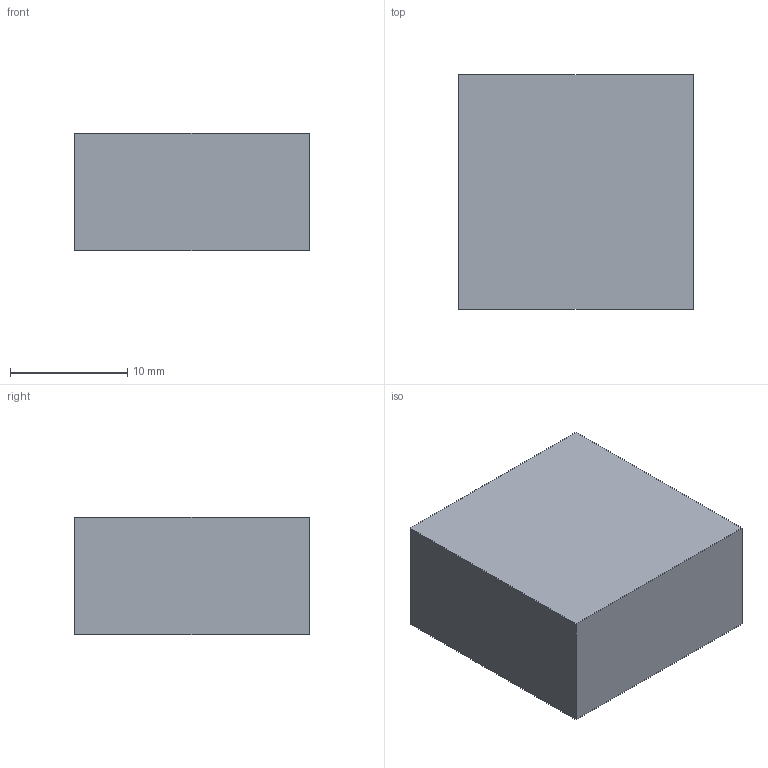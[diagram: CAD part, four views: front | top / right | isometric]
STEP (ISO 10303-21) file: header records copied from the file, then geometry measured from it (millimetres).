
FILE_DESCRIPTION(('Open CASCADE Model'),'2;1');
FILE_NAME('Open CASCADE Shape Model','2026-11-24T19:57:40',('Author'),( 'Open CASCADE'),'Open CASCADE STEP processor 7.8','Open CASCADE 7.8' ,'Unknown');
FILE_SCHEMA(('AUTOMOTIVE_DESIGN { 1 0 10303 214 1 1 1 1 }'));
Length unit declared in the file: millimetre
Products named in the file (1): Open CASCADE STEP translator 7.8 150
Bounding box: 20 x 20 x 10 mm (x, y, z)
Volume: 4000 mm3; surface area: 1600 mm2
Topology: 1 solids, 1 shells, 6 faces, 12 edges, 8 vertices
Faces by surface type: plane 6
Entity records: 322 total; most frequent: CARTESIAN_POINT 51, DIRECTION 50, LINE 36, VECTOR 36, ORIENTED_EDGE 24, PCURVE 24, DEFINITIONAL_REPRESENTATION 24, EDGE_CURVE 12
